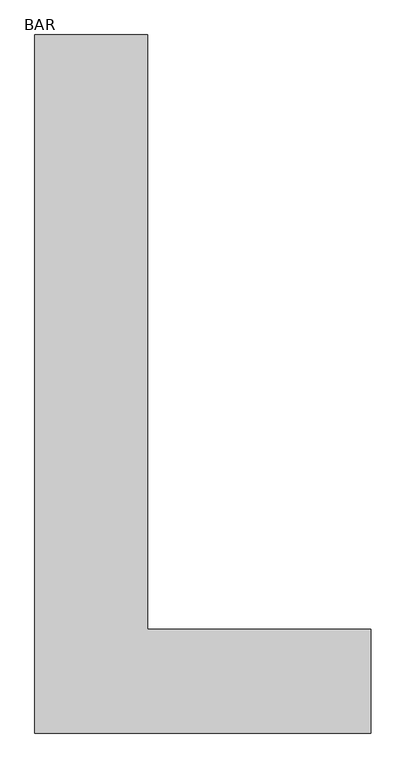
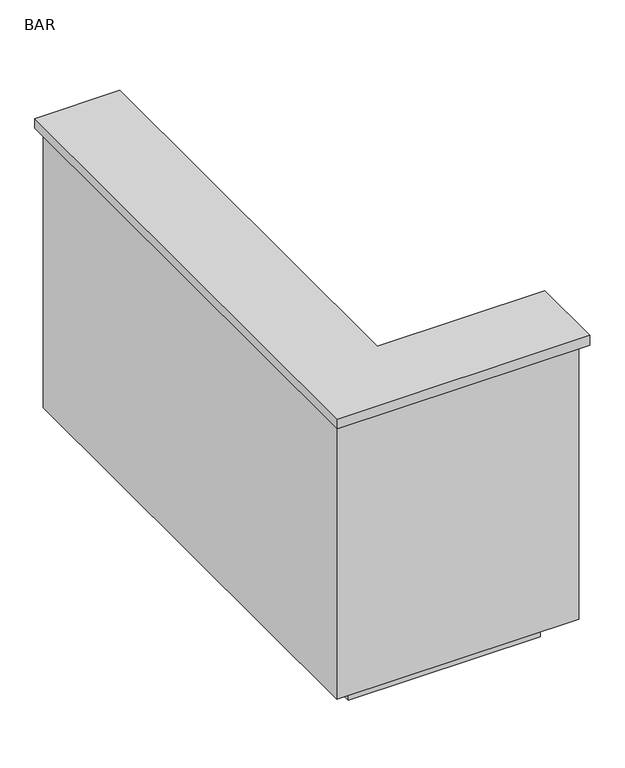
"""IFC4 building model written with IfcOpenShell, lengths in millimetres: proxy geometry, Countertop- L  Shape base : BAR."""

from ifc_helpers import new_model, si_unit, frame, origin, origin_with_axes, place, context, project, spatial, polyline, outline, extrude, source, transform, mapped, element, save


def bar_81681fa0(model_context):
    return source(origin(), model_context, "Body", "SweptSolid", [
        extrude(outline(polyline([(597.4, -19.05), (597.4, 1905.4048985), (908.55, 1905.4048985), (908.55, 267.1048985), (1524.5, 267.1048985), (1524.5, -19.05), (597.4, -19.05)])), frame((0.0, 0.0, 1181.1), z_axis=(0.0, 0.0, 1.0), x_axis=(1.0, 0.0, 0.0)), (0.0, 0.0, 1.0), 38.1),
        extrude(outline(polyline([(1505.45, 248.0548985), (1505.45, 19.05), (616.45, 19.05), (616.45, 1886.3548985), (889.5, 1886.3548985), (889.5, 248.0548985), (1505.45, 248.0548985)])), frame((0.0, 0.0, 101.6), z_axis=(0.0, 0.0, 1.0), x_axis=(1.0, 0.0, 0.0)), (0.0, 0.0, 1.0), 1079.5),
        extrude(outline(polyline([(813.1454163, 1784.7548985), (813.1454163, 146.4548985), (1422.9, 146.4548985), (1422.9, 120.65), (718.05, 120.65), (718.05, 1784.7548985), (813.1454163, 1784.7548985)])), origin_with_axes(), (0.0, 0.0, 1.0), 101.6),
    ])


if __name__ == "__main__":
    model = new_model("IFC4")
    model_context = context("Model", 3, world=origin())
    ifc_project = project(units=[si_unit("LENGTHUNIT", "METRE", prefix="MILLI")], contexts=[model_context])
    site = spatial("IfcSite", under=ifc_project)
    building = spatial("IfcBuilding", under=site)
    placement = place(None, origin())
    bar_shape = bar_81681fa0(model_context)
    element("IfcBuildingElementProxy", 1, Name="Countertop- L  Shape base : BAR", ObjectType="Countertop- L  Shape base : BAR", at=placement, inside=building, context=model_context, shape_type="MappedRepresentation", body=[
        mapped(bar_shape, transform((0.0, 0.0, 0.0), x_axis=(1.0, 0.0, 0.0), y_axis=(0.0, 1.0, 0.0), z_axis=(0.0, 0.0, 1.0))),
    ])
    save(model, "model.ifc")
